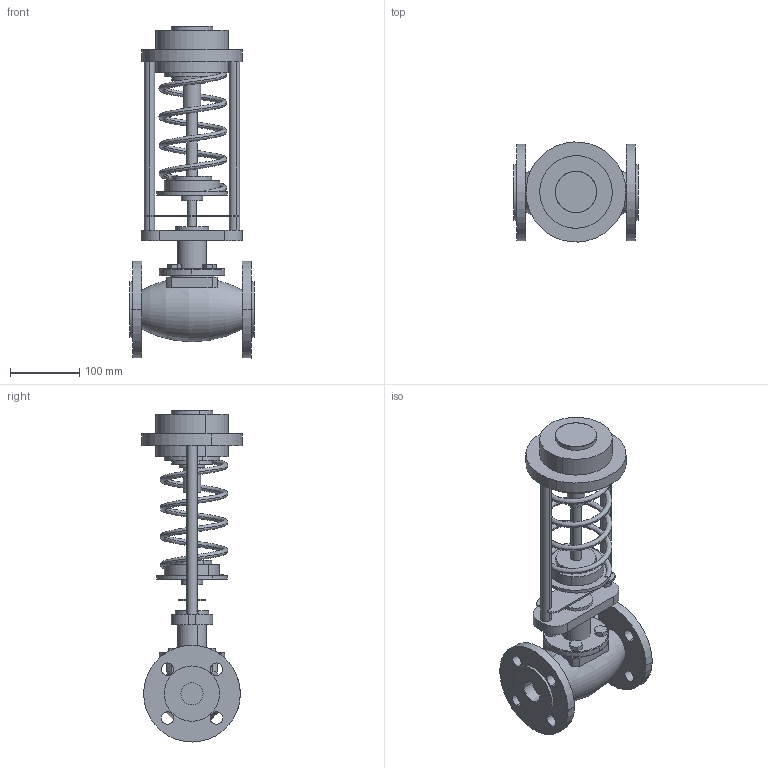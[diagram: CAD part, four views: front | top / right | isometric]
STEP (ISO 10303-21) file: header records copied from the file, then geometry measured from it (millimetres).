
FILE_DESCRIPTION (( 'STEP AP214' ), '1' );
FILE_NAME ('RDT-S, RDT-B DN-32.STEP', '2025-12-12T08:08:13', ( '' ), ( '' ), 'SwSTEP 2.0', 'SolidWorks 2023', '' );
FILE_SCHEMA (( 'AUTOMOTIVE_DESIGN' ));
Length unit declared in the file: millimetre
Products named in the file (5): RDT DN-32(______)_1.stp; ___ 1_3.stp; RDT-S, RDT-B DN-32.stp; Деталь61^RDT-S, RDT-B DN-32; RDT-S, RDT-B DN-32
Assembly tree (4 placements, depth 3):
  RDT-S, RDT-B DN-32
    RDT-S, RDT-B DN-32.stp
      ___ 1_3.stp
      RDT DN-32(______)_1.stp
    Деталь61^RDT-S, RDT-B DN-32
Bounding box: 180.06 x 144.86 x 480.5 mm (x, y, z)
Volume: 2535412.9 mm3; surface area: 318088.5 mm2
Topology: 3 solids, 4 shells, 196 faces, 479 edges, 316 vertices
Faces by surface type: cylinder 98, plane 86, cone 8, bspline 2, torus 2
Entity records: 18512 total; most frequent: CARTESIAN_POINT 13501, DIRECTION 1088, ORIENTED_EDGE 958, EDGE_CURVE 479, AXIS2_PLACEMENT_3D 424, VERTEX_POINT 316, EDGE_LOOP 251, LINE 240
